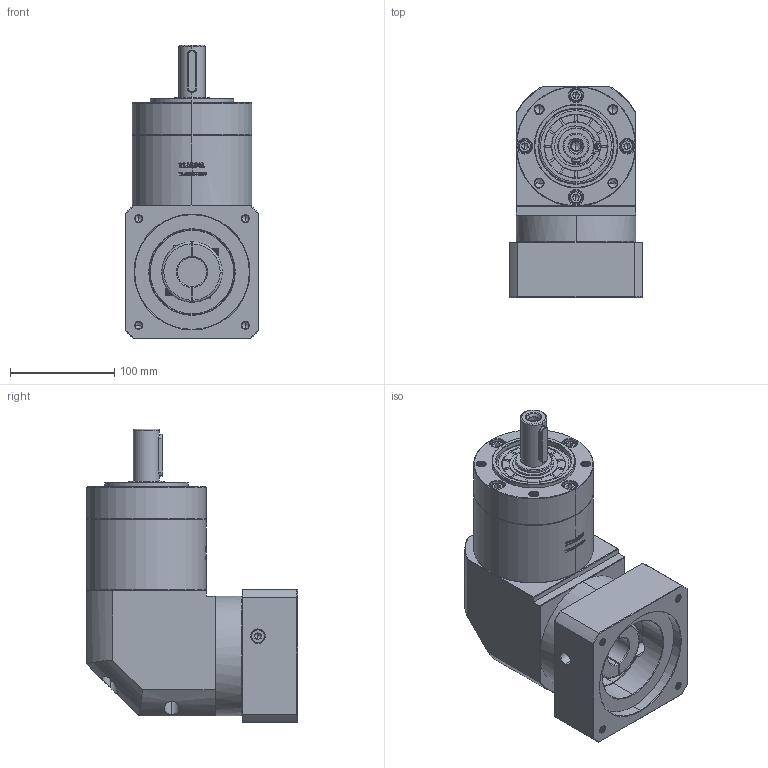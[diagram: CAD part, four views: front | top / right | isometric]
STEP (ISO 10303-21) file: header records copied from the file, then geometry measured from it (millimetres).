
FILE_DESCRIPTION (( 'STEP AP214' ), '1' );
FILE_NAME ('ZER120A-D25-L2-28-110-145-M8.step', '2023-03-14T08:17:34', ( '' ), ( '' ), 'SwSTEP 2.0', 'SolidWorks 2016', '' );
FILE_SCHEMA (( 'AUTOMOTIVE_DESIGN' ));
Length unit declared in the file: millimetre
Products named in the file (1): ZER120A-D25-L2-28-110-145-M8
Bounding box: 128 x 202.4 x 281.5 mm (x, y, z)
Volume: 3320191 mm3; surface area: 263912.3 mm2
Topology: 6 solids, 6 shells, 2956 faces, 7928 edges, 5113 vertices
Faces by surface type: plane 1464, bspline 619, cylinder 532, cone 333, torus 8
Entity records: 169302 total; most frequent: CARTESIAN_POINT 69541, ORIENTED_EDGE 15780, DIRECTION 11244, EDGE_CURVE 7890, VERTEX_POINT 5113, LINE 4806, VECTOR 4806, AXIS2_PLACEMENT_3D 3219
